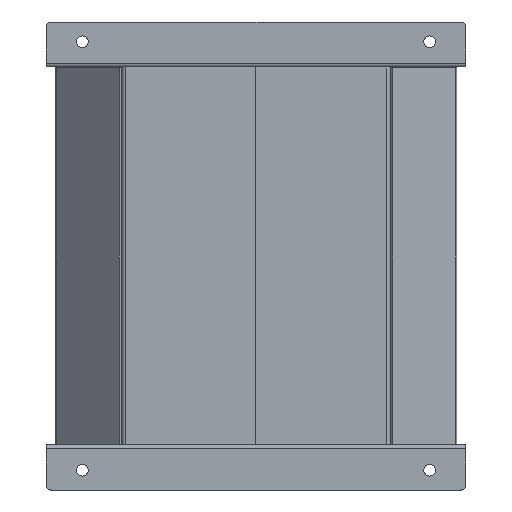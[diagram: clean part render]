
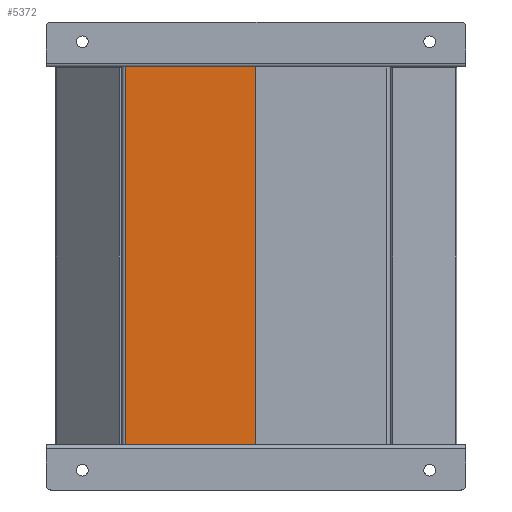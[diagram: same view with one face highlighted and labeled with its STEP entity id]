
A CAD part, front view. The second image highlights one B-rep face of the part: STEP entity #5372.
In plain terms, the highlighted planar face has unit normal (0, -1, 0).
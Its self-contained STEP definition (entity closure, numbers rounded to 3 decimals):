
#1338 = CARTESIAN_POINT ( 'NONE',  ( 210., -92.55, 0.1 ) ) ;
#1339 = CARTESIAN_POINT ( 'NONE',  ( 210., -92.55, 50.1 ) ) ;
#1846 = CARTESIAN_POINT ( 'NONE',  ( -210., -92.55, 50.1 ) ) ;
#1913 = CARTESIAN_POINT ( 'NONE',  ( 210., -92.55, 56.1 ) ) ;
#1923 = CARTESIAN_POINT ( 'NONE',  ( -210., -92.55, 0.1 ) ) ;
#1981 = CARTESIAN_POINT ( 'NONE',  ( -210., -92.55, 145. ) ) ;
#1982 = CARTESIAN_POINT ( 'NONE',  ( -210., -92.55, 56.1 ) ) ;
#2049 = DIRECTION ( 'NONE',  ( 0., 0., -1. ) ) ;
#2050 = VECTOR ( 'NONE', #2049, 1000. ) ;
#2051 = CARTESIAN_POINT ( 'NONE',  ( -210., -92.55, 145. ) ) ;
#2052 = LINE ( 'NONE', #2051, #2050 ) ;
#2075 = DIRECTION ( 'NONE',  ( 0., 0., -1. ) ) ;
#2076 = VECTOR ( 'NONE', #2075, 1000. ) ;
#2077 = CARTESIAN_POINT ( 'NONE',  ( 210., -92.55, 145. ) ) ;
#2078 = LINE ( 'NONE', #2077, #2076 ) ;
#2094 = DIRECTION ( 'NONE',  ( 0., 0., -1. ) ) ;
#2095 = VECTOR ( 'NONE', #2094, 1000. ) ;
#2096 = CARTESIAN_POINT ( 'NONE',  ( 210., -92.55, 145. ) ) ;
#2097 = LINE ( 'NONE', #2096, #2095 ) ;
#2104 = DIRECTION ( 'NONE',  ( 0., 0., -1. ) ) ;
#2105 = VECTOR ( 'NONE', #2104, 1000. ) ;
#2110 = CARTESIAN_POINT ( 'NONE',  ( -210., -92.55, 145. ) ) ;
#2111 = LINE ( 'NONE', #2110, #2105 ) ;
#2117 = CARTESIAN_POINT ( 'NONE',  ( 210., -92.55, 145. ) ) ;
#2187 = CARTESIAN_POINT ( 'NONE',  ( 213., -92.55, 56.1 ) ) ;
#2188 = DIRECTION ( 'NONE',  ( 0., 0., -1. ) ) ;
#2189 = VECTOR ( 'NONE', #2188, 1000. ) ;
#2190 = CARTESIAN_POINT ( 'NONE',  ( 213., -92.55, 50.1 ) ) ;
#2195 = LINE ( 'NONE', #2190, #2189 ) ;
#2200 = CARTESIAN_POINT ( 'NONE',  ( 213., -92.55, 50.1 ) ) ;
#2260 = DIRECTION ( 'NONE',  ( -1., 0., 0. ) ) ;
#2261 = VECTOR ( 'NONE', #2260, 1000. ) ;
#2262 = CARTESIAN_POINT ( 'NONE',  ( 210., -92.55, 0.1 ) ) ;
#2263 = LINE ( 'NONE', #2262, #2261 ) ;
#2291 = DIRECTION ( 'NONE',  ( 1., 0., 0. ) ) ;
#2292 = VECTOR ( 'NONE', #2291, 1000. ) ;
#2293 = CARTESIAN_POINT ( 'NONE',  ( 213., -92.55, 56.1 ) ) ;
#2294 = LINE ( 'NONE', #2293, #2292 ) ;
#2364 = CARTESIAN_POINT ( 'NONE',  ( -213., -92.55, 50.1 ) ) ;
#2365 = DIRECTION ( 'NONE',  ( 0., 0., -1. ) ) ;
#2366 = VECTOR ( 'NONE', #2365, 1000. ) ;
#2367 = CARTESIAN_POINT ( 'NONE',  ( -213., -92.55, 50.1 ) ) ;
#2369 = LINE ( 'NONE', #2367, #2366 ) ;
#2376 = CARTESIAN_POINT ( 'NONE',  ( -213., -92.55, 56.1 ) ) ;
#2386 = DIRECTION ( 'NONE',  ( 1., 0., 0. ) ) ;
#2388 = VECTOR ( 'NONE', #2386, 1000. ) ;
#2389 = CARTESIAN_POINT ( 'NONE',  ( -210., -92.55, 50.1 ) ) ;
#2390 = LINE ( 'NONE', #2389, #2388 ) ;
#2419 = DIRECTION ( 'NONE',  ( -1., 0., 0. ) ) ;
#2420 = VECTOR ( 'NONE', #2419, 1000. ) ;
#2421 = CARTESIAN_POINT ( 'NONE',  ( 210., -92.55, 50.1 ) ) ;
#2427 = LINE ( 'NONE', #2421, #2420 ) ;
#2476 = DIRECTION ( 'NONE',  ( 0., 1., 0. ) ) ;
#2478 = LINE ( 'NONE', #2519, #2481 ) ;
#2481 = VECTOR ( 'NONE', #2518, 1000. ) ;
#2484 = AXIS2_PLACEMENT_3D ( 'NONE', #2513, #2476, #2485 ) ;
#2485 = DIRECTION ( 'NONE',  ( 0., 0., 1. ) ) ;
#2487 = FACE_OUTER_BOUND ( 'NONE', #5391, .T. ) ;
#2488 = PLANE ( 'NONE',  #2484 ) ;
#2513 = CARTESIAN_POINT ( 'NONE',  ( 210., -92.55, 145. ) ) ;
#2518 = DIRECTION ( 'NONE',  ( -1., 0., 0. ) ) ;
#2519 = CARTESIAN_POINT ( 'NONE',  ( -213., -92.55, 56.1 ) ) ;
#2561 = DIRECTION ( 'NONE',  ( -1., 0., 0. ) ) ;
#2562 = VECTOR ( 'NONE', #2561, 1000. ) ;
#2563 = CARTESIAN_POINT ( 'NONE',  ( 210., -92.55, 145. ) ) ;
#2564 = LINE ( 'NONE', #2563, #2562 ) ;
#4966 = VERTEX_POINT ( 'NONE', #1339 ) ;
#4968 = VERTEX_POINT ( 'NONE', #1338 ) ;
#4979 = VERTEX_POINT ( 'NONE', #1913 ) ;
#4996 = VERTEX_POINT ( 'NONE', #1846 ) ;
#5013 = ORIENTED_EDGE ( 'NONE', *, *, #5226, .F. ) ;
#5120 = EDGE_CURVE ( 'NONE', #4996, #5217, #2111, .T. ) ;
#5129 = EDGE_CURVE ( 'NONE', #5142, #4979, #2078, .T. ) ;
#5142 = VERTEX_POINT ( 'NONE', #2117 ) ;
#5143 = EDGE_CURVE ( 'NONE', #4966, #4968, #2097, .T. ) ;
#5179 = EDGE_CURVE ( 'NONE', #5202, #5201, #2052, .T. ) ;
#5201 = VERTEX_POINT ( 'NONE', #1982 ) ;
#5202 = VERTEX_POINT ( 'NONE', #1981 ) ;
#5217 = VERTEX_POINT ( 'NONE', #1923 ) ;
#5226 = EDGE_CURVE ( 'NONE', #5273, #4966, #2427, .T. ) ;
#5227 = ORIENTED_EDGE ( 'NONE', *, *, #5476, .T. ) ;
#5236 = EDGE_CURVE ( 'NONE', #5242, #4996, #2390, .T. ) ;
#5237 = ORIENTED_EDGE ( 'NONE', *, *, #5120, .T. ) ;
#5239 = VERTEX_POINT ( 'NONE', #2376 ) ;
#5240 = ORIENTED_EDGE ( 'NONE', *, *, #5241, .T. ) ;
#5241 = EDGE_CURVE ( 'NONE', #5239, #5242, #2369, .T. ) ;
#5242 = VERTEX_POINT ( 'NONE', #2364 ) ;
#5243 = ORIENTED_EDGE ( 'NONE', *, *, #5236, .T. ) ;
#5247 = ORIENTED_EDGE ( 'NONE', *, *, #5361, .F. ) ;
#5266 = EDGE_CURVE ( 'NONE', #4979, #5281, #2294, .T. ) ;
#5267 = ORIENTED_EDGE ( 'NONE', *, *, #5266, .F. ) ;
#5273 = VERTEX_POINT ( 'NONE', #2200 ) ;
#5278 = EDGE_CURVE ( 'NONE', #5281, #5273, #2195, .T. ) ;
#5279 = ORIENTED_EDGE ( 'NONE', *, *, #5129, .F. ) ;
#5280 = ORIENTED_EDGE ( 'NONE', *, *, #5278, .F. ) ;
#5281 = VERTEX_POINT ( 'NONE', #2187 ) ;
#5361 = EDGE_CURVE ( 'NONE', #4968, #5217, #2263, .T. ) ;
#5362 = ORIENTED_EDGE ( 'NONE', *, *, #5143, .F. ) ;
#5372 = ADVANCED_FACE ( 'NONE', ( #2487 ), #2488, .F. ) ;
#5373 = ORIENTED_EDGE ( 'NONE', *, *, #5179, .T. ) ;
#5374 = ORIENTED_EDGE ( 'NONE', *, *, #5375, .T. ) ;
#5375 = EDGE_CURVE ( 'NONE', #5201, #5239, #2478, .T. ) ;
#5391 = EDGE_LOOP ( 'NONE', ( #5373, #5374, #5240, #5243, #5237, #5247, #5362, #5013, #5280, #5267, #5279, #5227 ) ) ;
#5476 = EDGE_CURVE ( 'NONE', #5142, #5202, #2564, .T. ) ;
